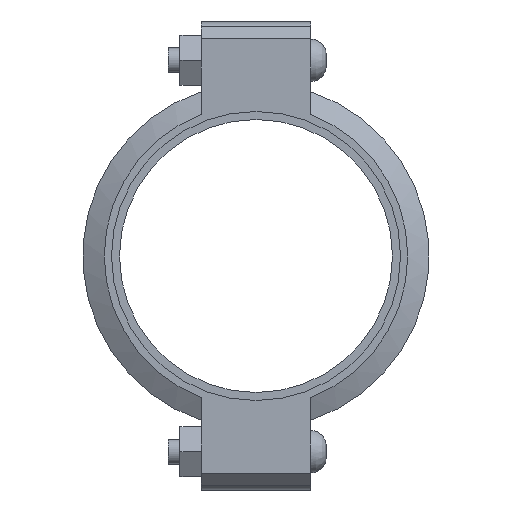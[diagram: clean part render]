
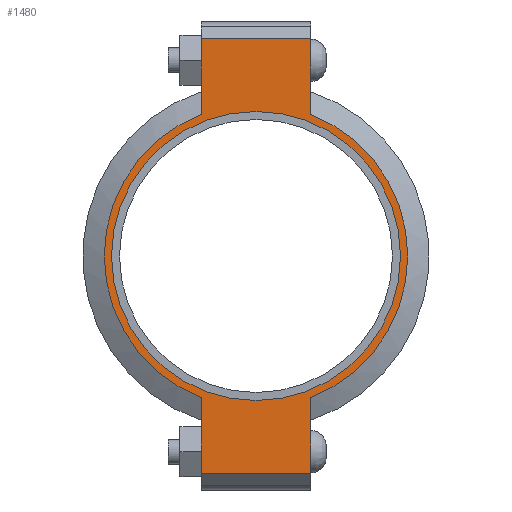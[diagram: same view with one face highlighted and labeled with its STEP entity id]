
A CAD part, left-side view. The second image highlights one B-rep face of the part: STEP entity #1480.
In plain terms, the highlighted planar face has unit normal (-1, 0, 0) as drawn and (0, 0, 1) by its records, which use the part's own axes.
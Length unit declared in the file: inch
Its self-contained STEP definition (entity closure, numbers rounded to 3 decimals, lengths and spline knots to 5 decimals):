
#160=LINE('',#2549,#251);
#168=LINE('',#2585,#259);
#175=LINE('',#2606,#266);
#184=LINE('',#2638,#275);
#185=LINE('',#2642,#276);
#186=LINE('',#2644,#277);
#251=VECTOR('',#2059,0.3937);
#259=VECTOR('',#2075,0.3937);
#266=VECTOR('',#2094,0.3937);
#275=VECTOR('',#2119,0.3937);
#276=VECTOR('',#2124,0.3937);
#277=VECTOR('',#2125,0.3937);
#329=FACE_BOUND('',#489,.T.);
#393=FACE_OUTER_BOUND('',#488,.T.);
#488=EDGE_LOOP('',(#1215,#1216,#1217,#1218,#1219,#1220,#1221,#1222));
#489=EDGE_LOOP('',(#1223));
#586=CIRCLE('',#1723,4.53);
#587=CIRCLE('',#1724,4.53);
#588=CIRCLE('',#1725,4.3125);
#691=VERTEX_POINT('',#2546);
#692=VERTEX_POINT('',#2548);
#703=VERTEX_POINT('',#2580);
#704=VERTEX_POINT('',#2584);
#711=VERTEX_POINT('',#2603);
#712=VERTEX_POINT('',#2605);
#722=VERTEX_POINT('',#2641);
#723=VERTEX_POINT('',#2643);
#724=VERTEX_POINT('',#2646);
#855=EDGE_CURVE('',#692,#691,#160,.T.);
#869=EDGE_CURVE('',#704,#703,#168,.T.);
#879=EDGE_CURVE('',#712,#711,#175,.T.);
#894=EDGE_CURVE('',#704,#691,#184,.T.);
#895=EDGE_CURVE('',#703,#712,#586,.T.);
#896=EDGE_CURVE('',#722,#711,#185,.T.);
#897=EDGE_CURVE('',#722,#723,#186,.T.);
#898=EDGE_CURVE('',#723,#692,#587,.T.);
#899=EDGE_CURVE('',#724,#724,#588,.T.);
#1215=ORIENTED_EDGE('',*,*,#894,.F.);
#1216=ORIENTED_EDGE('',*,*,#869,.T.);
#1217=ORIENTED_EDGE('',*,*,#895,.T.);
#1218=ORIENTED_EDGE('',*,*,#879,.T.);
#1219=ORIENTED_EDGE('',*,*,#896,.F.);
#1220=ORIENTED_EDGE('',*,*,#897,.T.);
#1221=ORIENTED_EDGE('',*,*,#898,.T.);
#1222=ORIENTED_EDGE('',*,*,#855,.T.);
#1223=ORIENTED_EDGE('',*,*,#899,.T.);
#1334=PLANE('',#1722);
#1480=ADVANCED_FACE('',(#393,#329),#1334,.T.);
#1722=AXIS2_PLACEMENT_3D('',#2639,#2120,#2121);
#1723=AXIS2_PLACEMENT_3D('',#2640,#2122,#2123);
#1724=AXIS2_PLACEMENT_3D('',#2645,#2126,#2127);
#1725=AXIS2_PLACEMENT_3D('',#2647,#2128,#2129);
#2059=DIRECTION('',(-1.,0.,0.));
#2075=DIRECTION('',(1.,0.,0.));
#2094=DIRECTION('',(1.,0.,0.));
#2119=DIRECTION('',(0.,1.,0.));
#2120=DIRECTION('center_axis',(0.,0.,1.));
#2121=DIRECTION('ref_axis',(1.,0.,0.));
#2122=DIRECTION('center_axis',(0.,0.,1.));
#2123=DIRECTION('ref_axis',(-1.,0.,0.));
#2124=DIRECTION('',(0.,-1.,0.));
#2125=DIRECTION('',(-1.,0.,0.));
#2126=DIRECTION('center_axis',(0.,0.,1.));
#2127=DIRECTION('ref_axis',(-1.,0.,0.));
#2128=DIRECTION('center_axis',(0.,0.,-1.));
#2129=DIRECTION('ref_axis',(-1.,0.,0.));
#2546=CARTESIAN_POINT('',(-6.485,1.63,1.16));
#2548=CARTESIAN_POINT('',(-4.22658,1.63,1.16));
#2549=CARTESIAN_POINT('',(-6.985,1.63,1.16));
#2580=CARTESIAN_POINT('',(-4.22658,-1.63,1.16));
#2584=CARTESIAN_POINT('',(-6.485,-1.63,1.16));
#2585=CARTESIAN_POINT('',(6.985,-1.63,1.16));
#2603=CARTESIAN_POINT('',(6.485,-1.63,1.16));
#2605=CARTESIAN_POINT('',(4.22658,-1.63,1.16));
#2606=CARTESIAN_POINT('',(6.985,-1.63,1.16));
#2638=CARTESIAN_POINT('',(-6.485,0.815,1.16));
#2639=CARTESIAN_POINT('Origin',(0.,0.,
1.16));
#2640=CARTESIAN_POINT('Origin',(0.,0.,1.16));
#2641=CARTESIAN_POINT('',(6.485,1.63,1.16));
#2642=CARTESIAN_POINT('',(6.485,-0.815,1.16));
#2643=CARTESIAN_POINT('',(4.22658,1.63,1.16));
#2644=CARTESIAN_POINT('',(-6.985,1.63,1.16));
#2645=CARTESIAN_POINT('Origin',(0.,0.,1.16));
#2646=CARTESIAN_POINT('',(4.3125,0.,1.16));
#2647=CARTESIAN_POINT('Origin',(0.,0.,1.16));
